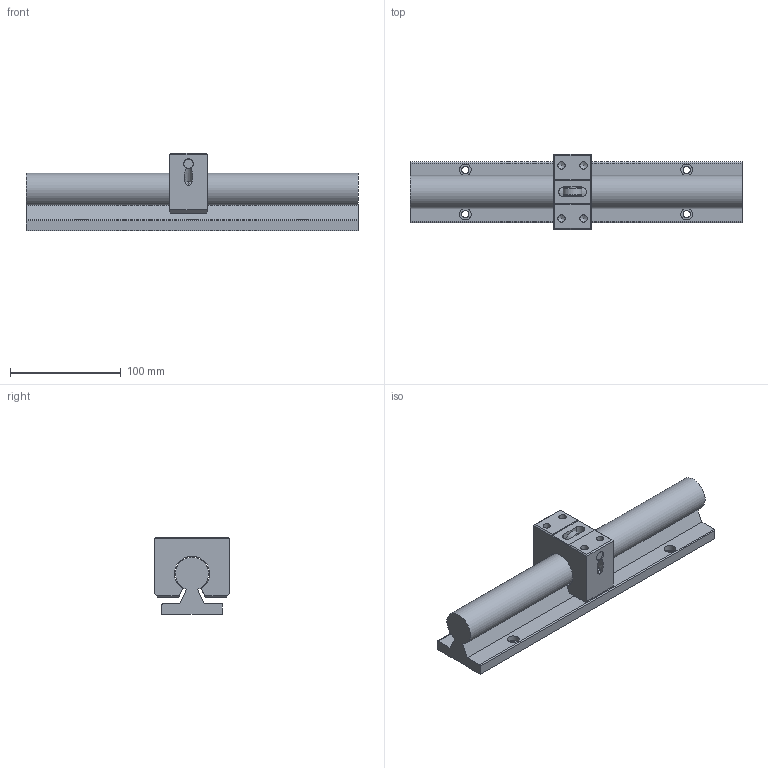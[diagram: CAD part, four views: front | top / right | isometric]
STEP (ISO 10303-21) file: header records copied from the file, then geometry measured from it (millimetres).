
FILE_DESCRIPTION((''),'2;1');
FILE_NAME('C:\Documents and Settings\土屋\My Documents\土屋移動用フォルダ\製品 (図面3D用)\カタログ用3D\リニアガイド\SLGA\採用\SLGA30.stp','2019-12-05T17:00:10',('y'),(''),'Autodesk Inventor 11','Autodesk Inventor 11','');
FILE_SCHEMA(('AUTOMOTIVE_DESIGN { 1 0 10303 214 1 1 1 1 }'));
Length unit declared in the file: millimetre
Products named in the file (3): SLGA30; G30R7; SLGA30(ハウジング)
Assembly tree (2 placements, depth 2):
  SLGA30
    G30R7
    SLGA30(ハウジング)
Bounding box: 300 x 68 x 70 mm (x, y, z)
Volume: 512388.6 mm3; surface area: 92119.8 mm2
Topology: 2 solids, 2 shells, 143 faces, 338 edges, 219 vertices
Faces by surface type: plane 69, bspline 33, cylinder 24, cone 14, torus 3
Full cylindrical faces by diameter (mm): 6 x3, 6.647 x2, 7 x3, 9 x3, 17 x3
Entity records: 4261 total; most frequent: CARTESIAN_POINT 1253, DIRECTION 580, ORIENTED_EDGE 544, EDGE_CURVE 272, EDGE_LOOP 230, AXIS2_PLACEMENT_3D 218, VERTEX_POINT 204, VECTOR 144
